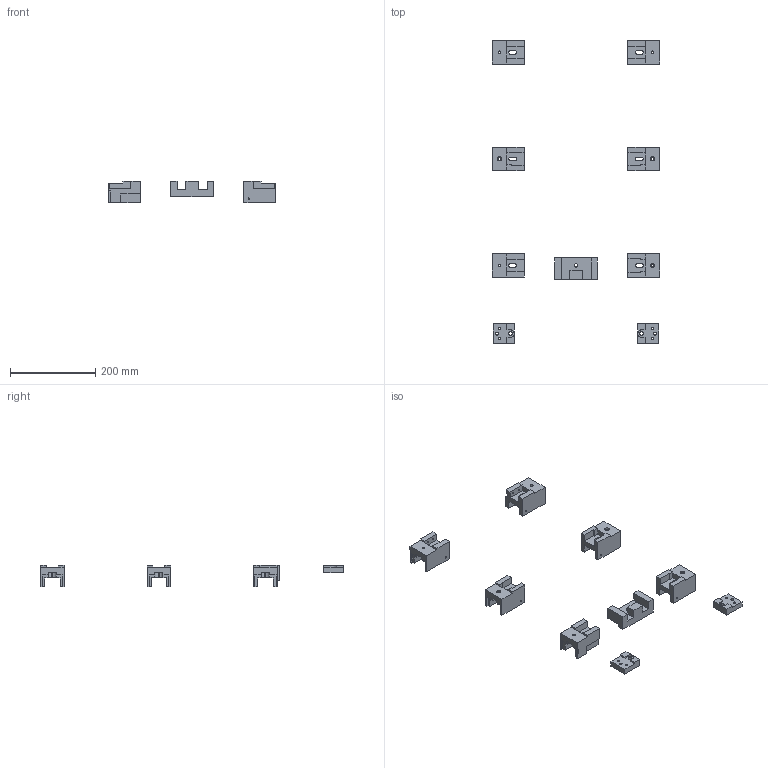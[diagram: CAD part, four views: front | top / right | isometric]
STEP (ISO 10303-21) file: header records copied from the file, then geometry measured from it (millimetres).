
FILE_DESCRIPTION(('STEP AP242'),'1');
FILE_NAME('Block-Set.stp','2025-07-31T11:16:11',(' '),(' '),'Spatial InterOp 3D',' ',' ');
FILE_SCHEMA(('AP242_MANAGED_MODEL_BASED_3D_ENGINEERING_MIM_LF {1 0 10303 442 1 1 4}'));
Length unit declared in the file: metre
Products named in the file (6): Block-Set; Konstruktion9; Block_StänderTasche; Block; Block_front_rechts; Block_front_links
Assembly tree (7 placements, depth 2):
  Block-Set
    Konstruktion9
    Block_StänderTasche
    Block  x3
    Block_front_rechts
    Block_front_links
Bounding box: 393.5 x 710.47 x 50.2 mm (x, y, z)
Volume: 830890.7 mm3; surface area: 189323.6 mm2
Topology: 9 solids, 9 shells, 299 faces, 842 edges, 564 vertices
Faces by surface type: plane 242, cylinder 57
Full cylindrical faces by diameter (mm): 3.3 x13, 5 x4, 6.4 x6, 6.8 x2, 8 x1, 8.4 x1, 8.5 x1, 10 x3
Entity records: 8512 total; most frequent: CARTESIAN_POINT 1168, ORIENTED_EDGE 1122, DIRECTION 1085, EDGE_CURVE 561, LINE 479, VECTOR 479, VERTEX_POINT 386, AXIS2_PLACEMENT_3D 303
